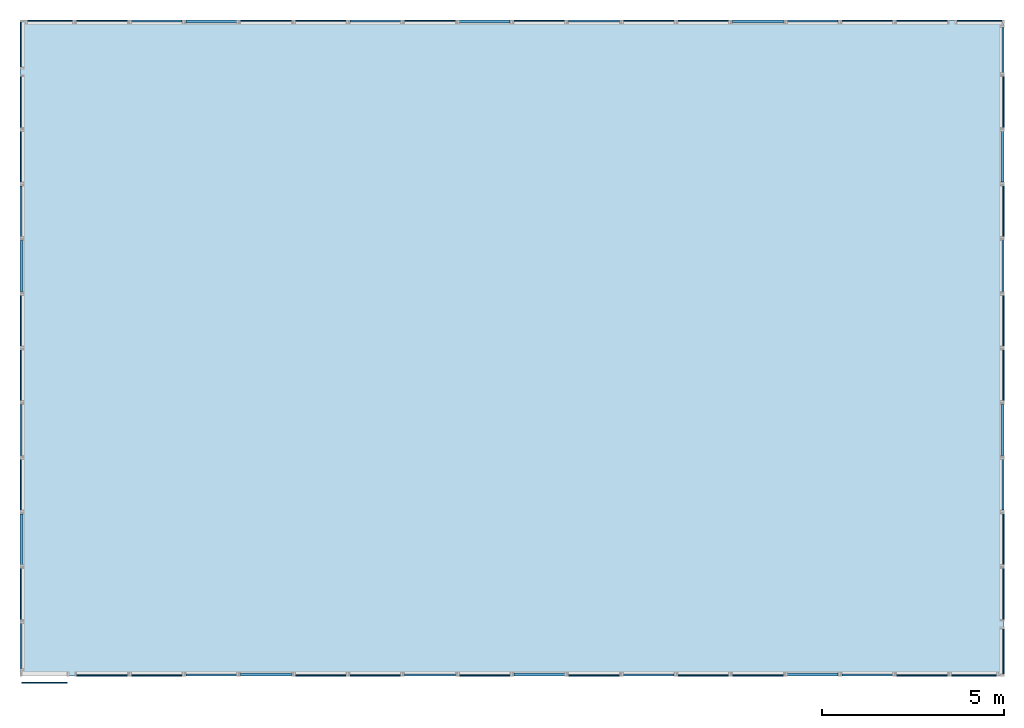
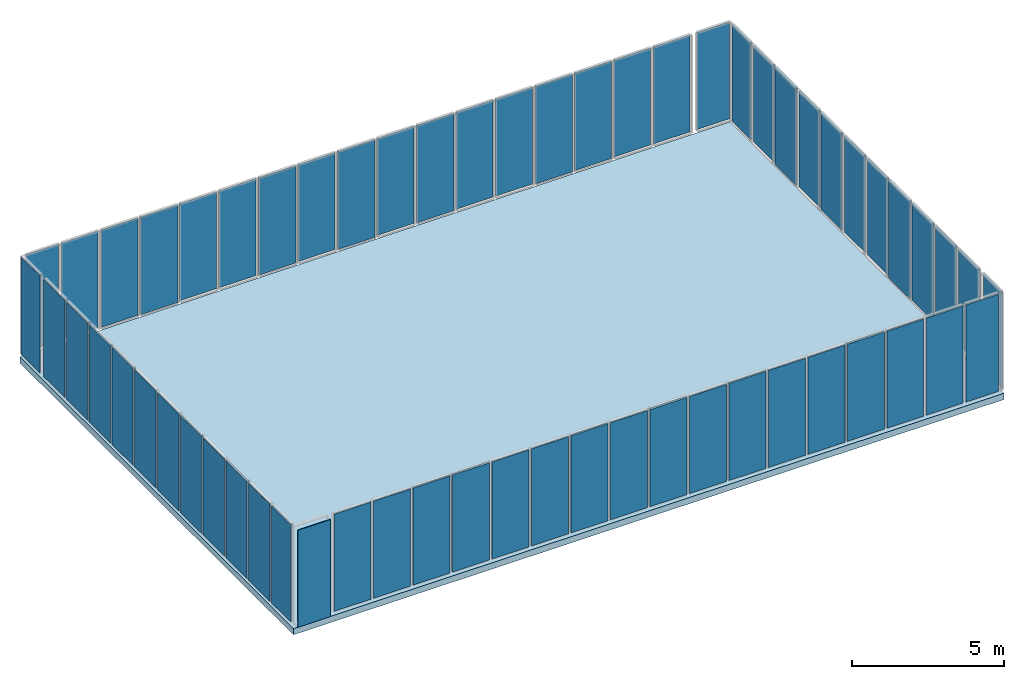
# One storey, part 4 of 4: 60 plates, 1 slab.
"""IFC4 building model written with IfcOpenShell, lengths in metres."""

from ifc_helpers import new_model, si_unit, frame, origin_with_axes, place, context, subcontext, project, spatial, indexed_curve, outline, extrude, material, element, save


model = new_model("IFC4")

# Units and contexts
model_context = context("Model", 3, precision=1e-05, world=origin_with_axes())
body_context = subcontext(model_context, "Body", "Model", "MODEL_VIEW")
ifc_project = project(units=[si_unit("AREAUNIT", "SQUARE_METRE"), si_unit("VOLUMEUNIT", "CUBIC_METRE"), si_unit("LENGTHUNIT", "METRE")], contexts=[model_context])

# Site, building, storey
site = spatial("IfcSite", under=ifc_project, Name="Synthetic Site")
building = spatial("IfcBuilding", under=site, Name="Complex Tower")
storey_placement = place(None, origin_with_axes())
storey = spatial("IfcBuildingStorey", under=building, at=storey_placement, Name="L01", Elevation=0.0)

# Plates
ifc_material_1 = material(Name="Glass")
plate_1_placement = place(storey_placement, frame((0.05, -0.2, 0.15), z_axis=(0.0, 0.0, 1.0), x_axis=(1.0, 0.0, 0.0)))
element("IfcPlate", 1, at=plate_1_placement, inside=storey, material=ifc_material_1, Name="CT-L01-S-001", PredefinedType="CURTAIN_PANEL", context=body_context, shape_type="SweptSolid", body=[
    extrude(outline(indexed_curve([(0.0, 0.0), (0.0, 0.028), (1.25, 0.028), (1.25, 0.0), (0.0, 0.0)], self_intersect=False)), origin_with_axes(), (0.0, 0.0, 1.0), 3.9000000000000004),
])
for number, where, z_axis, x_axis, name in (
    (2, (1.55, 0.0, 0.15), (0.0, 0.0, 1.0), (1.0, 0.0, 0.0), "CT-L01-S-002"),
    (3, (3.05, 0.0, 0.15), (0.0, 0.0, 1.0), (1.0, 0.0, 0.0), "CT-L01-S-003"),
):
    element("IfcPlate", number, at=place(storey_placement, frame(where, z_axis=z_axis, x_axis=x_axis)), inside=storey, material=ifc_material_1, Name=name, PredefinedType="CURTAIN_PANEL", context=body_context, shape_type="SweptSolid", body=[
        extrude(outline(indexed_curve([(0.0, 0.0), (0.0, 0.028), (1.4, 0.028), (1.4, 0.0), (0.0, 0.0)], self_intersect=False)), origin_with_axes(), (0.0, 0.0, 1.0), 3.9000000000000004),
    ])
ifc_material_2 = material(Name="Stone")
plate_2_placement = place(storey_placement, frame((4.55, 0.0, 0.15), z_axis=(0.0, 0.0, 1.0), x_axis=(1.0, 0.0, 0.0)))
element("IfcPlate", 4, at=plate_2_placement, inside=storey, material=ifc_material_2, Name="CT-L01-S-004", PredefinedType="SHEET", context=body_context, shape_type="SweptSolid", body=[
    extrude(outline(indexed_curve([(0.0, 0.0), (0.0, 0.06), (1.4, 0.06), (1.4, 0.0), (0.0, 0.0)], self_intersect=False)), origin_with_axes(), (0.0, 0.0, 1.0), 3.9000000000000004),
])
ifc_material_3 = material(Name="Aluminium")
plate_3_placement = place(storey_placement, frame((6.05, 0.0, 0.15), z_axis=(0.0, 0.0, 1.0), x_axis=(1.0, 0.0, 0.0)))
element("IfcPlate", 5, at=plate_3_placement, inside=storey, material=ifc_material_3, Name="CT-L01-S-005", PredefinedType="SHEET", context=body_context, shape_type="SweptSolid", body=[
    extrude(outline(indexed_curve([(0.0, 0.0), (0.0, 0.08), (1.4, 0.08), (1.4, 0.0), (0.0, 0.0)], self_intersect=False)), origin_with_axes(), (0.0, 0.0, 1.0), 3.9000000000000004),
])
for number, where, z_axis, x_axis, name in (
    (6, (7.55, 0.0, 0.15), (0.0, 0.0, 1.0), (1.0, 0.0, 0.0), "CT-L01-S-006"),
    (7, (9.05, 0.0, 0.15), (0.0, 0.0, 1.0), (1.0, 0.0, 0.0), "CT-L01-S-007"),
):
    element("IfcPlate", number, at=place(storey_placement, frame(where, z_axis=z_axis, x_axis=x_axis)), inside=storey, material=ifc_material_1, Name=name, PredefinedType="CURTAIN_PANEL", context=body_context, shape_type="SweptSolid", body=[
        extrude(outline(indexed_curve([(0.0, 0.0), (0.0, 0.028), (1.4, 0.028), (1.4, 0.0), (0.0, 0.0)], self_intersect=False)), origin_with_axes(), (0.0, 0.0, 1.0), 3.9000000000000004),
    ])
plate_4_placement = place(storey_placement, frame((10.55, 0.0, 0.15), z_axis=(0.0, 0.0, 1.0), x_axis=(1.0, 0.0, 0.0)))
element("IfcPlate", 8, at=plate_4_placement, inside=storey, material=ifc_material_2, Name="CT-L01-S-008", PredefinedType="SHEET", context=body_context, shape_type="SweptSolid", body=[
    extrude(outline(indexed_curve([(0.0, 0.0), (0.0, 0.06), (1.4, 0.06), (1.4, 0.0), (0.0, 0.0)], self_intersect=False)), origin_with_axes(), (0.0, 0.0, 1.0), 3.9000000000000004),
])
plate_5_placement = place(storey_placement, frame((12.05, 0.0, 0.15), z_axis=(0.0, 0.0, 1.0), x_axis=(1.0, 0.0, 0.0)))
element("IfcPlate", 9, at=plate_5_placement, inside=storey, material=ifc_material_1, Name="CT-L01-S-009", PredefinedType="CURTAIN_PANEL", context=body_context, shape_type="SweptSolid", body=[
    extrude(outline(indexed_curve([(0.0, 0.0), (0.0, 0.028), (1.4, 0.028), (1.4, 0.0), (0.0, 0.0)], self_intersect=False)), origin_with_axes(), (0.0, 0.0, 1.0), 3.9000000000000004),
])
plate_6_placement = place(storey_placement, frame((13.55, 0.0, 0.15), z_axis=(0.0, 0.0, 1.0), x_axis=(1.0, 0.0, 0.0)))
element("IfcPlate", 10, at=plate_6_placement, inside=storey, material=ifc_material_3, Name="CT-L01-S-010", PredefinedType="SHEET", context=body_context, shape_type="SweptSolid", body=[
    extrude(outline(indexed_curve([(0.0, 0.0), (0.0, 0.08), (1.4, 0.08), (1.4, 0.0), (0.0, 0.0)], self_intersect=False)), origin_with_axes(), (0.0, 0.0, 1.0), 3.9000000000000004),
])
plate_7_placement = place(storey_placement, frame((15.05, 0.0, 0.15), z_axis=(0.0, 0.0, 1.0), x_axis=(1.0, 0.0, 0.0)))
element("IfcPlate", 11, at=plate_7_placement, inside=storey, material=ifc_material_1, Name="CT-L01-S-011", PredefinedType="CURTAIN_PANEL", context=body_context, shape_type="SweptSolid", body=[
    extrude(outline(indexed_curve([(0.0, 0.0), (0.0, 0.028), (1.4, 0.028), (1.4, 0.0), (0.0, 0.0)], self_intersect=False)), origin_with_axes(), (0.0, 0.0, 1.0), 3.9000000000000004),
])
plate_8_placement = place(storey_placement, frame((16.55, 0.0, 0.15), z_axis=(0.0, 0.0, 1.0), x_axis=(1.0, 0.0, 0.0)))
element("IfcPlate", 12, at=plate_8_placement, inside=storey, material=ifc_material_2, Name="CT-L01-S-012", PredefinedType="SHEET", context=body_context, shape_type="SweptSolid", body=[
    extrude(outline(indexed_curve([(0.0, 0.0), (0.0, 0.06), (1.4, 0.06), (1.4, 0.0), (0.0, 0.0)], self_intersect=False)), origin_with_axes(), (0.0, 0.0, 1.0), 3.9000000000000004),
])
for number, where, z_axis, x_axis, name in (
    (13, (18.05, 0.0, 0.15), (0.0, 0.0, 1.0), (1.0, 0.0, 0.0), "CT-L01-S-013"),
    (14, (19.55, 0.0, 0.15), (0.0, 0.0, 1.0), (1.0, 0.0, 0.0), "CT-L01-S-014"),
):
    element("IfcPlate", number, at=place(storey_placement, frame(where, z_axis=z_axis, x_axis=x_axis)), inside=storey, material=ifc_material_1, Name=name, PredefinedType="CURTAIN_PANEL", context=body_context, shape_type="SweptSolid", body=[
        extrude(outline(indexed_curve([(0.0, 0.0), (0.0, 0.028), (1.4, 0.028), (1.4, 0.0), (0.0, 0.0)], self_intersect=False)), origin_with_axes(), (0.0, 0.0, 1.0), 3.9000000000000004),
    ])
plate_9_placement = place(storey_placement, frame((21.05, 0.0, 0.15), z_axis=(0.0, 0.0, 1.0), x_axis=(1.0, 0.0, 0.0)))
element("IfcPlate", 15, at=plate_9_placement, inside=storey, material=ifc_material_3, Name="CT-L01-S-015", PredefinedType="SHEET", context=body_context, shape_type="SweptSolid", body=[
    extrude(outline(indexed_curve([(0.0, 0.0), (0.0, 0.08), (1.4, 0.08), (1.4, 0.0), (0.0, 0.0)], self_intersect=False)), origin_with_axes(), (0.0, 0.0, 1.0), 3.9000000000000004),
])
plate_10_placement = place(storey_placement, frame((22.55, 0.0, 0.15), z_axis=(0.0, 0.0, 1.0), x_axis=(1.0, 0.0, 0.0)))
element("IfcPlate", 16, at=plate_10_placement, inside=storey, material=ifc_material_2, Name="CT-L01-S-016", PredefinedType="SHEET", context=body_context, shape_type="SweptSolid", body=[
    extrude(outline(indexed_curve([(0.0, 0.0), (0.0, 0.06), (1.4, 0.06), (1.4, 0.0), (0.0, 0.0)], self_intersect=False)), origin_with_axes(), (0.0, 0.0, 1.0), 3.9000000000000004),
])
plate_11_placement = place(storey_placement, frame((24.05, 0.0, 0.15), z_axis=(0.0, 0.0, 1.0), x_axis=(1.0, 0.0, 0.0)))
element("IfcPlate", 17, at=plate_11_placement, inside=storey, material=ifc_material_1, Name="CT-L01-S-017", PredefinedType="CURTAIN_PANEL", context=body_context, shape_type="SweptSolid", body=[
    extrude(outline(indexed_curve([(0.0, 0.0), (0.0, 0.028), (1.4, 0.028), (1.4, 0.0), (0.0, 0.0)], self_intersect=False)), origin_with_axes(), (0.0, 0.0, 1.0), 3.9000000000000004),
])
for number, where, z_axis, x_axis, name in (
    (18, (25.55, 0.0, 0.15), (0.0, 0.0, 1.0), (1.0, 0.0, 0.0), "CT-L01-S-018"),
    (19, (27.0, 0.05, 0.15), (0.0, 0.0, 1.0), (6.123233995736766e-17, 1.0, 0.0), "CT-L01-E-001"),
):
    element("IfcPlate", number, at=place(storey_placement, frame(where, z_axis=z_axis, x_axis=x_axis)), inside=storey, material=ifc_material_1, Name=name, PredefinedType="CURTAIN_PANEL", context=body_context, shape_type="SweptSolid", body=[
        extrude(outline(indexed_curve([(0.0, 0.0), (0.0, 0.028), (1.25, 0.028), (1.25, 0.0), (0.0, 0.0)], self_intersect=False)), origin_with_axes(), (0.0, 0.0, 1.0), 3.9000000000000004),
    ])
for number, where, z_axis, x_axis, name in (
    (20, (27.0, 1.55, 0.15), (0.0, 0.0, 1.0), (6.123233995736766e-17, 1.0, 0.0), "CT-L01-E-002"),
    (21, (27.0, 3.05, 0.15), (0.0, 0.0, 1.0), (6.123233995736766e-17, 1.0, 0.0), "CT-L01-E-003"),
):
    element("IfcPlate", number, at=place(storey_placement, frame(where, z_axis=z_axis, x_axis=x_axis)), inside=storey, material=ifc_material_1, Name=name, PredefinedType="CURTAIN_PANEL", context=body_context, shape_type="SweptSolid", body=[
        extrude(outline(indexed_curve([(0.0, 0.0), (0.0, 0.028), (1.4, 0.028), (1.4, 0.0), (0.0, 0.0)], self_intersect=False)), origin_with_axes(), (0.0, 0.0, 1.0), 3.9000000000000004),
    ])
plate_12_placement = place(storey_placement, frame((27.0, 4.55, 0.15), z_axis=(0.0, 0.0, 1.0), x_axis=(6.123233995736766e-17, 1.0, 0.0)))
element("IfcPlate", 22, at=plate_12_placement, inside=storey, material=ifc_material_2, Name="CT-L01-E-004", PredefinedType="SHEET", context=body_context, shape_type="SweptSolid", body=[
    extrude(outline(indexed_curve([(0.0, 0.0), (0.0, 0.06), (1.4, 0.06), (1.4, 0.0), (0.0, 0.0)], self_intersect=False)), origin_with_axes(), (0.0, 0.0, 1.0), 3.9000000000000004),
])
plate_13_placement = place(storey_placement, frame((27.0, 6.05, 0.15), z_axis=(0.0, 0.0, 1.0), x_axis=(6.123233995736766e-17, 1.0, 0.0)))
element("IfcPlate", 23, at=plate_13_placement, inside=storey, material=ifc_material_3, Name="CT-L01-E-005", PredefinedType="SHEET", context=body_context, shape_type="SweptSolid", body=[
    extrude(outline(indexed_curve([(0.0, 0.0), (0.0, 0.08), (1.4, 0.08), (1.4, 0.0), (0.0, 0.0)], self_intersect=False)), origin_with_axes(), (0.0, 0.0, 1.0), 3.9000000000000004),
])
for number, where, z_axis, x_axis, name in (
    (24, (27.0, 7.55, 0.15), (0.0, 0.0, 1.0), (6.123233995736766e-17, 1.0, 0.0), "CT-L01-E-006"),
    (25, (27.0, 9.05, 0.15), (0.0, 0.0, 1.0), (6.123233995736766e-17, 1.0, 0.0), "CT-L01-E-007"),
):
    element("IfcPlate", number, at=place(storey_placement, frame(where, z_axis=z_axis, x_axis=x_axis)), inside=storey, material=ifc_material_1, Name=name, PredefinedType="CURTAIN_PANEL", context=body_context, shape_type="SweptSolid", body=[
        extrude(outline(indexed_curve([(0.0, 0.0), (0.0, 0.028), (1.4, 0.028), (1.4, 0.0), (0.0, 0.0)], self_intersect=False)), origin_with_axes(), (0.0, 0.0, 1.0), 3.9000000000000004),
    ])
plate_14_placement = place(storey_placement, frame((27.0, 10.55, 0.15), z_axis=(0.0, 0.0, 1.0), x_axis=(6.123233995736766e-17, 1.0, 0.0)))
element("IfcPlate", 26, at=plate_14_placement, inside=storey, material=ifc_material_2, Name="CT-L01-E-008", PredefinedType="SHEET", context=body_context, shape_type="SweptSolid", body=[
    extrude(outline(indexed_curve([(0.0, 0.0), (0.0, 0.06), (1.4, 0.06), (1.4, 0.0), (0.0, 0.0)], self_intersect=False)), origin_with_axes(), (0.0, 0.0, 1.0), 3.9000000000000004),
])
plate_15_placement = place(storey_placement, frame((27.0, 12.05, 0.15), z_axis=(0.0, 0.0, 1.0), x_axis=(6.123233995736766e-17, 1.0, 0.0)))
element("IfcPlate", 27, at=plate_15_placement, inside=storey, material=ifc_material_1, Name="CT-L01-E-009", PredefinedType="CURTAIN_PANEL", context=body_context, shape_type="SweptSolid", body=[
    extrude(outline(indexed_curve([(0.0, 0.0), (0.0, 0.028), (1.4, 0.028), (1.4, 0.0), (0.0, 0.0)], self_intersect=False)), origin_with_axes(), (0.0, 0.0, 1.0), 3.9000000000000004),
])
plate_16_placement = place(storey_placement, frame((27.0, 13.55, 0.15), z_axis=(0.0, 0.0, 1.0), x_axis=(6.123233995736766e-17, 1.0, 0.0)))
element("IfcPlate", 28, at=plate_16_placement, inside=storey, material=ifc_material_3, Name="CT-L01-E-010", PredefinedType="SHEET", context=body_context, shape_type="SweptSolid", body=[
    extrude(outline(indexed_curve([(0.0, 0.0), (0.0, 0.08), (1.4, 0.08), (1.4, 0.0), (0.0, 0.0)], self_intersect=False)), origin_with_axes(), (0.0, 0.0, 1.0), 3.9000000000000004),
])
plate_17_placement = place(storey_placement, frame((27.0, 15.05, 0.15), z_axis=(0.0, 0.0, 1.0), x_axis=(6.123233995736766e-17, 1.0, 0.0)))
element("IfcPlate", 29, at=plate_17_placement, inside=storey, material=ifc_material_1, Name="CT-L01-E-011", PredefinedType="CURTAIN_PANEL", context=body_context, shape_type="SweptSolid", body=[
    extrude(outline(indexed_curve([(0.0, 0.0), (0.0, 0.028), (1.4, 0.028), (1.4, 0.0), (0.0, 0.0)], self_intersect=False)), origin_with_axes(), (0.0, 0.0, 1.0), 3.9000000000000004),
])
plate_18_placement = place(storey_placement, frame((27.0, 16.55, 0.15), z_axis=(0.0, 0.0, 1.0), x_axis=(6.123233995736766e-17, 1.0, 0.0)))
element("IfcPlate", 30, at=plate_18_placement, inside=storey, material=ifc_material_2, Name="CT-L01-E-012", PredefinedType="SHEET", context=body_context, shape_type="SweptSolid", body=[
    extrude(outline(indexed_curve([(0.0, 0.0), (0.0, 0.06), (1.25, 0.06), (1.25, 0.0), (0.0, 0.0)], self_intersect=False)), origin_with_axes(), (0.0, 0.0, 1.0), 3.9000000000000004),
])
plate_19_placement = place(storey_placement, frame((26.95, 18.0, 0.15), z_axis=(0.0, 0.0, 1.0), x_axis=(-1.0, 1.2246467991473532e-16, 0.0)))
element("IfcPlate", 31, at=plate_19_placement, inside=storey, material=ifc_material_1, Name="CT-L01-N-001", PredefinedType="CURTAIN_PANEL", context=body_context, shape_type="SweptSolid", body=[
    extrude(outline(indexed_curve([(0.0, 0.0), (0.0, 0.028), (1.25, 0.028), (1.25, 0.0), (0.0, 0.0)], self_intersect=False)), origin_with_axes(), (0.0, 0.0, 1.0), 3.9000000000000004),
])
for number, where, z_axis, x_axis, name in (
    (32, (25.45, 18.0, 0.15), (0.0, 0.0, 1.0), (-1.0, 1.2246467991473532e-16, 0.0), "CT-L01-N-002"),
    (33, (23.95, 18.0, 0.15), (0.0, 0.0, 1.0), (-1.0, 1.2246467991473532e-16, 0.0), "CT-L01-N-003"),
):
    element("IfcPlate", number, at=place(storey_placement, frame(where, z_axis=z_axis, x_axis=x_axis)), inside=storey, material=ifc_material_1, Name=name, PredefinedType="CURTAIN_PANEL", context=body_context, shape_type="SweptSolid", body=[
        extrude(outline(indexed_curve([(0.0, 0.0), (0.0, 0.028), (1.4, 0.028), (1.4, 0.0), (0.0, 0.0)], self_intersect=False)), origin_with_axes(), (0.0, 0.0, 1.0), 3.9000000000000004),
    ])
plate_20_placement = place(storey_placement, frame((22.45, 18.0, 0.15), z_axis=(0.0, 0.0, 1.0), x_axis=(-1.0, 1.2246467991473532e-16, 0.0)))
element("IfcPlate", 34, at=plate_20_placement, inside=storey, material=ifc_material_2, Name="CT-L01-N-004", PredefinedType="SHEET", context=body_context, shape_type="SweptSolid", body=[
    extrude(outline(indexed_curve([(0.0, 0.0), (0.0, 0.06), (1.4, 0.06), (1.4, 0.0), (0.0, 0.0)], self_intersect=False)), origin_with_axes(), (0.0, 0.0, 1.0), 3.9000000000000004),
])
plate_21_placement = place(storey_placement, frame((20.95, 18.0, 0.15), z_axis=(0.0, 0.0, 1.0), x_axis=(-1.0, 1.2246467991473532e-16, 0.0)))
element("IfcPlate", 35, at=plate_21_placement, inside=storey, material=ifc_material_3, Name="CT-L01-N-005", PredefinedType="SHEET", context=body_context, shape_type="SweptSolid", body=[
    extrude(outline(indexed_curve([(0.0, 0.0), (0.0, 0.08), (1.4, 0.08), (1.4, 0.0), (0.0, 0.0)], self_intersect=False)), origin_with_axes(), (0.0, 0.0, 1.0), 3.9000000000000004),
])
for number, where, z_axis, x_axis, name in (
    (36, (19.45, 18.0, 0.15), (0.0, 0.0, 1.0), (-1.0, 1.2246467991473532e-16, 0.0), "CT-L01-N-006"),
    (37, (17.95, 18.0, 0.15), (0.0, 0.0, 1.0), (-1.0, 1.2246467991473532e-16, 0.0), "CT-L01-N-007"),
):
    element("IfcPlate", number, at=place(storey_placement, frame(where, z_axis=z_axis, x_axis=x_axis)), inside=storey, material=ifc_material_1, Name=name, PredefinedType="CURTAIN_PANEL", context=body_context, shape_type="SweptSolid", body=[
        extrude(outline(indexed_curve([(0.0, 0.0), (0.0, 0.028), (1.4, 0.028), (1.4, 0.0), (0.0, 0.0)], self_intersect=False)), origin_with_axes(), (0.0, 0.0, 1.0), 3.9000000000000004),
    ])
plate_22_placement = place(storey_placement, frame((16.45, 18.0, 0.15), z_axis=(0.0, 0.0, 1.0), x_axis=(-1.0, 1.2246467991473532e-16, 0.0)))
element("IfcPlate", 38, at=plate_22_placement, inside=storey, material=ifc_material_2, Name="CT-L01-N-008", PredefinedType="SHEET", context=body_context, shape_type="SweptSolid", body=[
    extrude(outline(indexed_curve([(0.0, 0.0), (0.0, 0.06), (1.4, 0.06), (1.4, 0.0), (0.0, 0.0)], self_intersect=False)), origin_with_axes(), (0.0, 0.0, 1.0), 3.9000000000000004),
])
plate_23_placement = place(storey_placement, frame((14.95, 18.0, 0.15), z_axis=(0.0, 0.0, 1.0), x_axis=(-1.0, 1.2246467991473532e-16, 0.0)))
element("IfcPlate", 39, at=plate_23_placement, inside=storey, material=ifc_material_1, Name="CT-L01-N-009", PredefinedType="CURTAIN_PANEL", context=body_context, shape_type="SweptSolid", body=[
    extrude(outline(indexed_curve([(0.0, 0.0), (0.0, 0.028), (1.4, 0.028), (1.4, 0.0), (0.0, 0.0)], self_intersect=False)), origin_with_axes(), (0.0, 0.0, 1.0), 3.9000000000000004),
])
plate_24_placement = place(storey_placement, frame((13.45, 18.0, 0.15), z_axis=(0.0, 0.0, 1.0), x_axis=(-1.0, 1.2246467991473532e-16, 0.0)))
element("IfcPlate", 40, at=plate_24_placement, inside=storey, material=ifc_material_3, Name="CT-L01-N-010", PredefinedType="SHEET", context=body_context, shape_type="SweptSolid", body=[
    extrude(outline(indexed_curve([(0.0, 0.0), (0.0, 0.08), (1.4, 0.08), (1.4, 0.0), (0.0, 0.0)], self_intersect=False)), origin_with_axes(), (0.0, 0.0, 1.0), 3.9000000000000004),
])
plate_25_placement = place(storey_placement, frame((11.95, 18.000000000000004, 0.15), z_axis=(0.0, 0.0, 1.0), x_axis=(-1.0, 1.2246467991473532e-16, 0.0)))
element("IfcPlate", 41, at=plate_25_placement, inside=storey, material=ifc_material_1, Name="CT-L01-N-011", PredefinedType="CURTAIN_PANEL", context=body_context, shape_type="SweptSolid", body=[
    extrude(outline(indexed_curve([(0.0, 0.0), (0.0, 0.028), (1.4, 0.028), (1.4, 0.0), (0.0, 0.0)], self_intersect=False)), origin_with_axes(), (0.0, 0.0, 1.0), 3.9000000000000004),
])
plate_26_placement = place(storey_placement, frame((10.45, 18.000000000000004, 0.15), z_axis=(0.0, 0.0, 1.0), x_axis=(-1.0, 1.2246467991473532e-16, 0.0)))
element("IfcPlate", 42, at=plate_26_placement, inside=storey, material=ifc_material_2, Name="CT-L01-N-012", PredefinedType="SHEET", context=body_context, shape_type="SweptSolid", body=[
    extrude(outline(indexed_curve([(0.0, 0.0), (0.0, 0.06), (1.4, 0.06), (1.4, 0.0), (0.0, 0.0)], self_intersect=False)), origin_with_axes(), (0.0, 0.0, 1.0), 3.9000000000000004),
])
for number, where, z_axis, x_axis, name in (
    (43, (8.95, 18.000000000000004, 0.15), (0.0, 0.0, 1.0), (-1.0, 1.2246467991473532e-16, 0.0), "CT-L01-N-013"),
    (44, (7.449999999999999, 18.000000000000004, 0.15), (0.0, 0.0, 1.0), (-1.0, 1.2246467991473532e-16, 0.0), "CT-L01-N-014"),
):
    element("IfcPlate", number, at=place(storey_placement, frame(where, z_axis=z_axis, x_axis=x_axis)), inside=storey, material=ifc_material_1, Name=name, PredefinedType="CURTAIN_PANEL", context=body_context, shape_type="SweptSolid", body=[
        extrude(outline(indexed_curve([(0.0, 0.0), (0.0, 0.028), (1.4, 0.028), (1.4, 0.0), (0.0, 0.0)], self_intersect=False)), origin_with_axes(), (0.0, 0.0, 1.0), 3.9000000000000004),
    ])
plate_27_placement = place(storey_placement, frame((5.949999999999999, 18.000000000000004, 0.15), z_axis=(0.0, 0.0, 1.0), x_axis=(-1.0, 1.2246467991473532e-16, 0.0)))
element("IfcPlate", 45, at=plate_27_placement, inside=storey, material=ifc_material_3, Name="CT-L01-N-015", PredefinedType="SHEET", context=body_context, shape_type="SweptSolid", body=[
    extrude(outline(indexed_curve([(0.0, 0.0), (0.0, 0.08), (1.4, 0.08), (1.4, 0.0), (0.0, 0.0)], self_intersect=False)), origin_with_axes(), (0.0, 0.0, 1.0), 3.9000000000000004),
])
plate_28_placement = place(storey_placement, frame((4.449999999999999, 18.000000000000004, 0.15), z_axis=(0.0, 0.0, 1.0), x_axis=(-1.0, 1.2246467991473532e-16, 0.0)))
element("IfcPlate", 46, at=plate_28_placement, inside=storey, material=ifc_material_2, Name="CT-L01-N-016", PredefinedType="SHEET", context=body_context, shape_type="SweptSolid", body=[
    extrude(outline(indexed_curve([(0.0, 0.0), (0.0, 0.06), (1.4, 0.06), (1.4, 0.0), (0.0, 0.0)], self_intersect=False)), origin_with_axes(), (0.0, 0.0, 1.0), 3.9000000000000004),
])
plate_29_placement = place(storey_placement, frame((2.9499999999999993, 18.000000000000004, 0.15), z_axis=(0.0, 0.0, 1.0), x_axis=(-1.0, 1.2246467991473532e-16, 0.0)))
element("IfcPlate", 47, at=plate_29_placement, inside=storey, material=ifc_material_1, Name="CT-L01-N-017", PredefinedType="CURTAIN_PANEL", context=body_context, shape_type="SweptSolid", body=[
    extrude(outline(indexed_curve([(0.0, 0.0), (0.0, 0.028), (1.4, 0.028), (1.4, 0.0), (0.0, 0.0)], self_intersect=False)), origin_with_axes(), (0.0, 0.0, 1.0), 3.9000000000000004),
])
for number, where, z_axis, x_axis, name in (
    (48, (1.4499999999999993, 18.000000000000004, 0.15), (0.0, 0.0, 1.0), (-1.0, 1.2246467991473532e-16, 0.0), "CT-L01-N-018"),
    (49, (-9.184850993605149e-18, 17.95, 0.15), (0.0, 0.0, 1.0), (-1.8369701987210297e-16, -1.0, 0.0), "CT-L01-W-001"),
):
    element("IfcPlate", number, at=place(storey_placement, frame(where, z_axis=z_axis, x_axis=x_axis)), inside=storey, material=ifc_material_1, Name=name, PredefinedType="CURTAIN_PANEL", context=body_context, shape_type="SweptSolid", body=[
        extrude(outline(indexed_curve([(0.0, 0.0), (0.0, 0.028), (1.25, 0.028), (1.25, 0.0), (0.0, 0.0)], self_intersect=False)), origin_with_axes(), (0.0, 0.0, 1.0), 3.9000000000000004),
    ])
for number, where, z_axis, x_axis, name in (
    (50, (-2.847303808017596e-16, 16.45, 0.15), (0.0, 0.0, 1.0), (-1.8369701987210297e-16, -1.0, 0.0), "CT-L01-W-002"),
    (51, (-5.60275910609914e-16, 14.95, 0.15), (0.0, 0.0, 1.0), (-1.8369701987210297e-16, -1.0, 0.0), "CT-L01-W-003"),
):
    element("IfcPlate", number, at=place(storey_placement, frame(where, z_axis=z_axis, x_axis=x_axis)), inside=storey, material=ifc_material_1, Name=name, PredefinedType="CURTAIN_PANEL", context=body_context, shape_type="SweptSolid", body=[
        extrude(outline(indexed_curve([(0.0, 0.0), (0.0, 0.028), (1.4, 0.028), (1.4, 0.0), (0.0, 0.0)], self_intersect=False)), origin_with_axes(), (0.0, 0.0, 1.0), 3.9000000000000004),
    ])
plate_30_placement = place(storey_placement, frame((-8.358214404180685e-16, 13.45, 0.15), z_axis=(0.0, 0.0, 1.0), x_axis=(-1.8369701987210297e-16, -1.0, 0.0)))
element("IfcPlate", 52, at=plate_30_placement, inside=storey, material=ifc_material_2, Name="CT-L01-W-004", PredefinedType="SHEET", context=body_context, shape_type="SweptSolid", body=[
    extrude(outline(indexed_curve([(0.0, 0.0), (0.0, 0.06), (1.4, 0.06), (1.4, 0.0), (0.0, 0.0)], self_intersect=False)), origin_with_axes(), (0.0, 0.0, 1.0), 3.9000000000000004),
])
plate_31_placement = place(storey_placement, frame((-1.111366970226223e-15, 11.95, 0.15), z_axis=(0.0, 0.0, 1.0), x_axis=(-1.8369701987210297e-16, -1.0, 0.0)))
element("IfcPlate", 53, at=plate_31_placement, inside=storey, material=ifc_material_3, Name="CT-L01-W-005", PredefinedType="SHEET", context=body_context, shape_type="SweptSolid", body=[
    extrude(outline(indexed_curve([(0.0, 0.0), (0.0, 0.08), (1.4, 0.08), (1.4, 0.0), (0.0, 0.0)], self_intersect=False)), origin_with_axes(), (0.0, 0.0, 1.0), 3.9000000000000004),
])
for number, where, z_axis, x_axis, name in (
    (54, (-1.3869125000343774e-15, 10.45, 0.15), (0.0, 0.0, 1.0), (-1.8369701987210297e-16, -1.0, 0.0), "CT-L01-W-006"),
    (55, (-1.662458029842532e-15, 8.95, 0.15), (0.0, 0.0, 1.0), (-1.8369701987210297e-16, -1.0, 0.0), "CT-L01-W-007"),
):
    element("IfcPlate", number, at=place(storey_placement, frame(where, z_axis=z_axis, x_axis=x_axis)), inside=storey, material=ifc_material_1, Name=name, PredefinedType="CURTAIN_PANEL", context=body_context, shape_type="SweptSolid", body=[
        extrude(outline(indexed_curve([(0.0, 0.0), (0.0, 0.028), (1.4, 0.028), (1.4, 0.0), (0.0, 0.0)], self_intersect=False)), origin_with_axes(), (0.0, 0.0, 1.0), 3.9000000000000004),
    ])
plate_32_placement = place(storey_placement, frame((-1.9380035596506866e-15, 7.449999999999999, 0.15), z_axis=(0.0, 0.0, 1.0), x_axis=(-1.8369701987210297e-16, -1.0, 0.0)))
element("IfcPlate", 56, at=plate_32_placement, inside=storey, material=ifc_material_2, Name="CT-L01-W-008", PredefinedType="SHEET", context=body_context, shape_type="SweptSolid", body=[
    extrude(outline(indexed_curve([(0.0, 0.0), (0.0, 0.06), (1.4, 0.06), (1.4, 0.0), (0.0, 0.0)], self_intersect=False)), origin_with_axes(), (0.0, 0.0, 1.0), 3.9000000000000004),
])
plate_33_placement = place(storey_placement, frame((-2.213549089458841e-15, 5.949999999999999, 0.15), z_axis=(0.0, 0.0, 1.0), x_axis=(-1.8369701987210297e-16, -1.0, 0.0)))
element("IfcPlate", 57, at=plate_33_placement, inside=storey, material=ifc_material_1, Name="CT-L01-W-009", PredefinedType="CURTAIN_PANEL", context=body_context, shape_type="SweptSolid", body=[
    extrude(outline(indexed_curve([(0.0, 0.0), (0.0, 0.028), (1.4, 0.028), (1.4, 0.0), (0.0, 0.0)], self_intersect=False)), origin_with_axes(), (0.0, 0.0, 1.0), 3.9000000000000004),
])
plate_34_placement = place(storey_placement, frame((-2.4890946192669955e-15, 4.449999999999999, 0.15), z_axis=(0.0, 0.0, 1.0), x_axis=(-1.8369701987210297e-16, -1.0, 0.0)))
element("IfcPlate", 58, at=plate_34_placement, inside=storey, material=ifc_material_3, Name="CT-L01-W-010", PredefinedType="SHEET", context=body_context, shape_type="SweptSolid", body=[
    extrude(outline(indexed_curve([(0.0, 0.0), (0.0, 0.08), (1.4, 0.08), (1.4, 0.0), (0.0, 0.0)], self_intersect=False)), origin_with_axes(), (0.0, 0.0, 1.0), 3.9000000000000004),
])
plate_35_placement = place(storey_placement, frame((-2.76464014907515e-15, 2.9499999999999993, 0.15), z_axis=(0.0, 0.0, 1.0), x_axis=(-1.8369701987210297e-16, -1.0, 0.0)))
element("IfcPlate", 59, at=plate_35_placement, inside=storey, material=ifc_material_1, Name="CT-L01-W-011", PredefinedType="CURTAIN_PANEL", context=body_context, shape_type="SweptSolid", body=[
    extrude(outline(indexed_curve([(0.0, 0.0), (0.0, 0.028), (1.4, 0.028), (1.4, 0.0), (0.0, 0.0)], self_intersect=False)), origin_with_axes(), (0.0, 0.0, 1.0), 3.9000000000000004),
])
plate_36_placement = place(storey_placement, frame((-3.040185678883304e-15, 1.4499999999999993, 0.15), z_axis=(0.0, 0.0, 1.0), x_axis=(-1.8369701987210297e-16, -1.0, 0.0)))
element("IfcPlate", 60, at=plate_36_placement, inside=storey, material=ifc_material_2, Name="CT-L01-W-012", PredefinedType="SHEET", context=body_context, shape_type="SweptSolid", body=[
    extrude(outline(indexed_curve([(0.0, 0.0), (0.0, 0.06), (1.25, 0.06), (1.25, 0.0), (0.0, 0.0)], self_intersect=False)), origin_with_axes(), (0.0, 0.0, 1.0), 3.9000000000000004),
])

# Slab
ifc_material_4 = material(Name="Concrete")
slab_placement = place(storey_placement, frame((0.0, 0.0, -0.25), z_axis=(0.0, 0.0, 1.0), x_axis=(1.0, 0.0, 0.0)))
element("IfcSlab", 61, at=slab_placement, inside=storey, material=ifc_material_4, Name="CT-SLAB-01", PredefinedType="FLOOR", context=body_context, shape_type="SweptSolid", body=[
    extrude(outline(indexed_curve([(0.0, 0.0), (0.0, 18.0), (27.0, 18.0), (27.0, 0.0), (0.0, 0.0)], self_intersect=False)), origin_with_axes(), (0.0, 0.0, 1.0), 0.25),
])

save(model, "model.ifc")
